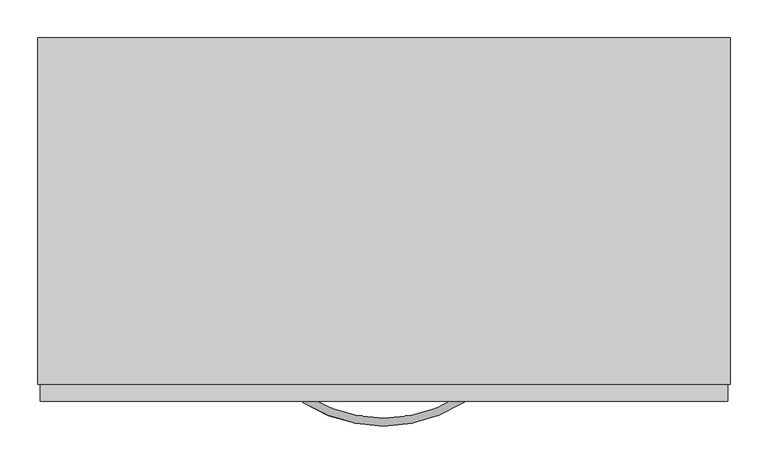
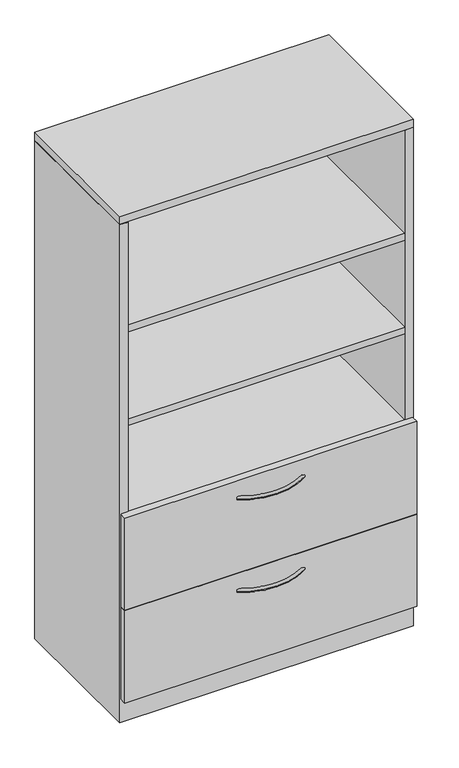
"""IFC4 building model written with IfcOpenShell, lengths in millimetres: furniture geometry, Steelcase - Universal Storage - Cabinet - Combination - Proud Steel : 65 1/2H - Open Cabinet/2 Drawers - 18 7/8D x 36W."""

from ifc_helpers import new_model, si_unit, point, frame, origin, place, context, project, spatial, polyline, circle_curve, ellipse_curve, trimmed, outline, extrude, faceted_brep, source, transform, mapped, element, save
from ifc_brep_helpers import plane_surface, revolved_surface, advanced_brep


def furniture_32dcb63b(model_context):
    return source(origin(), model_context, "Body", "SolidModel", [
        extrude(outline(polyline([(889.0000242, -25.4000008), (889.0000242, -454.0250121), (25.4000008, -454.0250121), (25.4000008, -25.4000008), (889.0000242, -25.4000008)])), frame((0.0, 0.0, 660.4000242), z_axis=(0.0, 0.0, 1.0), x_axis=(1.0, 0.0, 0.0)), (0.0, 0.0, 1.0), 22.2249516),
        extrude(outline(polyline([(889.0000242, -25.4000008), (889.0000242, -454.0250121), (25.4000008, -454.0250121), (25.4000008, -25.4000008), (889.0000242, -25.4000008)])), frame((0.0, 0.0, 965.2000242), z_axis=(0.0, 0.0, 1.0), x_axis=(1.0, 0.0, 0.0)), (0.0, 0.0, 1.0), 22.2249516),
        extrude(outline(polyline([(889.0000242, -25.4000008), (889.0000242, -454.0250121), (25.4000008, -454.0250121), (25.4000008, -25.4000008), (889.0000242, -25.4000008)])), frame((0.0, 0.0, 1273.1750484), z_axis=(0.0, 0.0, 1.0), x_axis=(1.0, 0.0, 0.0)), (0.0, 0.0, 1.0), 22.2249516),
        advanced_brep(
        [(350.6245932, -481.5705994, 323.56425), (356.0977519, -473.0108019, 323.56425), (562.9315136, -481.1337636, 323.56425), (557.4231767, -472.5965612, 323.56425)],
        [
            (0, 1, circle_curve(frame((353.3611726, -477.2907007, 323.56425), z_axis=(-0.8424997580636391, 0.5386967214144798, 0.0), x_axis=(0.5386967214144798, 0.8424997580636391, 0.0)), 5.08)),
            (1, 0, circle_curve(frame((353.3611726, -477.2907007, 323.56425), z_axis=(-0.8424997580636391, 0.5386967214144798, 0.0), x_axis=(0.5386967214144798, 0.8424997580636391, 0.0)), 5.08)),
            (2, 3, circle_curve(frame((560.1773452, -476.8651624, 323.56425), z_axis=(0.8402758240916, 0.5421591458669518, 0.0), x_axis=(-0.5421591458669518, 0.8402758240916, 0.0)), 5.08)),
            (3, 2, circle_curve(frame((560.1773452, -476.8651624, 323.56425), z_axis=(0.8402758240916, 0.5421591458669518, 0.0), x_axis=(-0.5421591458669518, 0.8402758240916, 0.0)), 5.08)),
            (3, 1, circle_curve(frame((456.4380004, -316.0827352, 323.56425), z_axis=(0.0, 0.0, -1.0), x_axis=(-0.5386967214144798, -0.8424997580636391, 0.0)), 186.2648211)),
            (0, 2, circle_curve(frame((456.4380004, -316.0827352, 323.56425), z_axis=(0.0, 0.0, 1.0), x_axis=(-0.5386967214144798, -0.8424997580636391, 0.0)), 196.4248211)),
        ],
        [
            plane_surface(frame((353.7794521, -476.6365286, 324.358), z_axis=(-0.8424997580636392, 0.5386967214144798, 0.0), x_axis=(0.0, 0.0, 1.0))),
            plane_surface(frame((559.7563772, -476.2127171, 324.358), z_axis=(0.8402758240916, 0.5421591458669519, 0.0), x_axis=(0.0, 0.0, 1.0))),
            revolved_surface(trimmed(ellipse_curve(frame((353.3611726, -477.2907007, 323.56425), z_axis=(-0.8424997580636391, 0.5386967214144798, 0.0), x_axis=(0.5386967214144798, 0.8424997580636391, 0.0)), 5.08, 5.08), [point((350.6245932, -481.5705994, 323.56425))], [point((356.0977519, -473.0108019, 323.56425))], True, "CARTESIAN"), (456.4380004, -316.0827352, 324.358), (0.0, 0.0, 1.0)),
            revolved_surface(trimmed(ellipse_curve(frame((353.3611726, -477.2907007, 323.56425), z_axis=(-0.8424997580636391, 0.5386967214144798, 0.0), x_axis=(0.5386967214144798, 0.8424997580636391, 0.0)), 5.08, 5.08), [point((356.0977519, -473.0108019, 323.56425))], [point((350.6245932, -481.5705994, 323.56425))], True, "CARTESIAN"), (456.4380004, -316.0827352, 324.358), (0.0, 0.0, 1.0)),
        ],
        [
            (0, [[1, 2]]),
            (1, [[3, 4]]),
            (2, [[5, -1, 6, -4]]),
            (3, [[-6, -2, -5, -3]]),
        ],
    ),
        advanced_brep(
        [(350.6245932, -481.5705994, 627.85625), (356.0977519, -473.0108019, 627.85625), (562.9315136, -481.1337636, 627.85625), (557.4231767, -472.5965612, 627.85625)],
        [
            (0, 1, circle_curve(frame((353.3611726, -477.2907007, 627.85625), z_axis=(-0.8424997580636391, 0.5386967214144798, 0.0), x_axis=(0.5386967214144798, 0.8424997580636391, 0.0)), 5.08)),
            (1, 0, circle_curve(frame((353.3611726, -477.2907007, 627.85625), z_axis=(-0.8424997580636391, 0.5386967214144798, 0.0), x_axis=(0.5386967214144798, 0.8424997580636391, 0.0)), 5.08)),
            (2, 3, circle_curve(frame((560.1773452, -476.8651624, 627.85625), z_axis=(0.8402758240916, 0.5421591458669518, 0.0), x_axis=(-0.5421591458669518, 0.8402758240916, 0.0)), 5.08)),
            (3, 2, circle_curve(frame((560.1773452, -476.8651624, 627.85625), z_axis=(0.8402758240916, 0.5421591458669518, 0.0), x_axis=(-0.5421591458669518, 0.8402758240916, 0.0)), 5.08)),
            (3, 1, circle_curve(frame((456.4380004, -316.0827352, 627.85625), z_axis=(0.0, 0.0, -1.0), x_axis=(-0.5386967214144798, -0.8424997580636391, 0.0)), 186.2648211)),
            (0, 2, circle_curve(frame((456.4380004, -316.0827352, 627.85625), z_axis=(0.0, 0.0, 1.0), x_axis=(-0.5386967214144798, -0.8424997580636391, 0.0)), 196.4248211)),
        ],
        [
            plane_surface(frame((353.7794521, -476.6365286, 628.65), z_axis=(-0.8424997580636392, 0.5386967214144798, 0.0), x_axis=(0.0, 0.0, 1.0))),
            plane_surface(frame((559.7563772, -476.2127171, 628.65), z_axis=(0.8402758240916, 0.5421591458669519, 0.0), x_axis=(0.0, 0.0, 1.0))),
            revolved_surface(trimmed(ellipse_curve(frame((353.3611726, -477.2907007, 627.85625), z_axis=(-0.8424997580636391, 0.5386967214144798, 0.0), x_axis=(0.5386967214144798, 0.8424997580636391, 0.0)), 5.08, 5.08), [point((350.6245932, -481.5705994, 627.85625))], [point((356.0977519, -473.0108019, 627.85625))], True, "CARTESIAN"), (456.4380004, -316.0827352, 628.65), (0.0, 0.0, 1.0)),
            revolved_surface(trimmed(ellipse_curve(frame((353.3611726, -477.2907007, 627.85625), z_axis=(-0.8424997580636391, 0.5386967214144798, 0.0), x_axis=(0.5386967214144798, 0.8424997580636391, 0.0)), 5.08, 5.08), [point((356.0977519, -473.0108019, 627.85625))], [point((350.6245932, -481.5705994, 627.85625))], True, "CARTESIAN"), (456.4380004, -316.0827352, 628.65), (0.0, 0.0, 1.0)),
        ],
        [
            (0, [[1, 2]]),
            (1, [[3, 4]]),
            (2, [[5, -1, 6, -4]]),
            (3, [[-6, -2, -5, -3]]),
        ],
    ),
        faceted_brep([(25.4000008, -457.3261219, 76.2), (889.0000242, -457.3261219, 76.2), (889.0000242, -25.4000008, 76.2), (25.4000008, -25.4000008, 76.2), (914.4, 0.0, 0.0), (914.4, -457.3261219, 0.0), (0.0, -457.3261219, 0.0), (0.0, 0.0, 0.0), (0.0, 0.0, 1636.776), (914.4, 0.0, 1636.776), (0.0, -457.3261219, 1636.776), (914.4, -457.3261219, 1636.776), (889.0000242, -457.3261219, 1636.776), (25.4000008, -457.3261219, 1636.776), (889.0000242, -25.4000008, 1636.776), (25.4000008, -25.4000008, 1636.776)], [[[0, 1, 2, 3]], [[4, 5, 6, 7]], [[4, 7, 8, 9]], [[8, 7, 6, 10]], [[10, 6, 5, 11, 12, 1, 0, 13]], [[11, 5, 4, 9]], [[14, 12, 11, 9, 8, 10, 13, 15]], [[12, 14, 2, 1]], [[15, 13, 0, 3]], [[14, 15, 3, 2]]]),
        extrude(outline(polyline([(911.2225413, -479.552), (3.1725353, -479.552), (3.1725353, -457.3261219), (911.2225413, -457.3261219), (911.2225413, -479.552)])), frame((0.0, 0.0, 77.724), z_axis=(0.0, 0.0, 1.0), x_axis=(1.0, 0.0, 0.0)), (0.0, 0.0, 1.0), 303.276),
        extrude(outline(polyline([(911.2225413, -479.552), (3.1725353, -479.552), (3.1725353, -457.3261219), (911.2225413, -457.3261219), (911.2225413, -479.552)])), frame((0.0, 0.0, 382.524), z_axis=(0.0, 0.0, 1.0), x_axis=(1.0, 0.0, 0.0)), (0.0, 0.0, 1.0), 303.276),
        extrude(outline(polyline([(914.4, 0.0), (914.4, -457.3261219), (0.0, -457.3261219), (0.0, 0.0), (914.4, 0.0)])), frame((0.0, 0.0, 1638.2999516), z_axis=(0.0, 0.0, 1.0), x_axis=(1.0, 0.0, 0.0)), (0.0, 0.0, 1.0), 25.4000484),
    ])


if __name__ == "__main__":
    model = new_model("IFC4")
    model_context = context("Model", 3, world=origin())
    ifc_project = project(units=[si_unit("LENGTHUNIT", "METRE", prefix="MILLI")], contexts=[model_context])
    site = spatial("IfcSite", under=ifc_project)
    building = spatial("IfcBuilding", under=site)
    placement = place(None, origin())
    furniture_shape = furniture_32dcb63b(model_context)
    element("IfcFurniture", 1, ObjectType="Steelcase - Universal Storage - Cabinet - Combination - Proud Steel : 65 1/2H - Open Cabinet/2 Drawers - 18 7/8D x 36W", at=placement, inside=building, context=model_context, shape_type="MappedRepresentation", body=[
        mapped(furniture_shape, transform((0.0, 0.0, 0.0), x_axis=(1.0, 0.0, 0.0), y_axis=(0.0, 1.0, 0.0), z_axis=(0.0, 0.0, 1.0))),
    ])
    save(model, "model.ifc")
